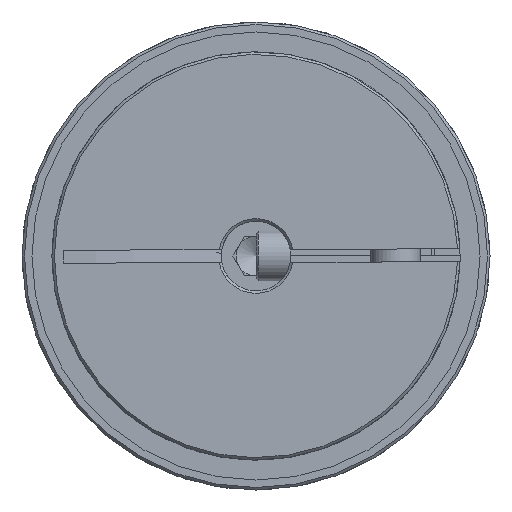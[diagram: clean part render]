
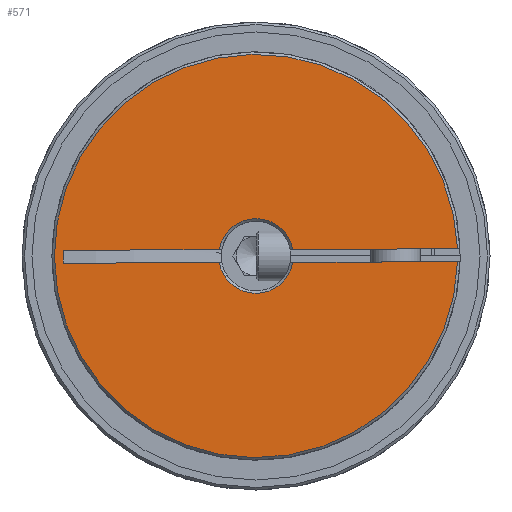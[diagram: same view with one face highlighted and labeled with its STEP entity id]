
A CAD part, left-side view. The second image highlights one B-rep face of the part: STEP entity #571.
In plain terms, the highlighted planar face has unit normal (-1, 0, 0).
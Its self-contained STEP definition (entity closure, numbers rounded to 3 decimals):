
#571 = ADVANCED_FACE( 'NONE', ( #1096 ), #1097, .F. );
#1096 = FACE_OUTER_BOUND( '', #1618, .T. );
#1097 = PLANE( '', #1619 );
#1618 = EDGE_LOOP( '', ( #2554, #2555, #2556, #2557, #2558, #2559, #2560, #2561 ) );
#1619 = AXIS2_PLACEMENT_3D( '', #2562, #2563, #2564 );
#2554 = ORIENTED_EDGE( '', *, *, #3140, .T. );
#2555 = ORIENTED_EDGE( '', *, *, #3142, .T. );
#2556 = ORIENTED_EDGE( '', *, *, #3143, .T. );
#2557 = ORIENTED_EDGE( '', *, *, #3148, .T. );
#2558 = ORIENTED_EDGE( '', *, *, #3149, .F. );
#2559 = ORIENTED_EDGE( '', *, *, #3150, .T. );
#2560 = ORIENTED_EDGE( '', *, *, #3151, .F. );
#2561 = ORIENTED_EDGE( '', *, *, #3127, .T. );
#2562 = CARTESIAN_POINT( '', ( 0., 7., 0. ) );
#2563 = DIRECTION( '', ( 1., 0., 0. ) );
#2564 = DIRECTION( '', ( 0., 1., 0. ) );
#3127 = EDGE_CURVE( 'NONE', #3580, #3584, #3586, .T. );
#3140 = EDGE_CURVE( 'NONE', #3584, #3607, #3609, .T. );
#3142 = EDGE_CURVE( 'NONE', #3607, #3610, #3612, .T. );
#3143 = EDGE_CURVE( 'NONE', #3610, #3613, #3614, .T. );
#3148 = EDGE_CURVE( 'NONE', #3613, #3622, #3623, .F. );
#3149 = EDGE_CURVE( 'NONE', #3624, #3622, #3625, .F. );
#3150 = EDGE_CURVE( 'NONE', #3624, #3626, #3627, .T. );
#3151 = EDGE_CURVE( 'NONE', #3580, #3626, #3628, .F. );
#3580 = VERTEX_POINT( 'NONE', #4659 );
#3584 = VERTEX_POINT( 'NONE', #4666 );
#3586 = LINE( '', #4668, #4669 );
#3607 = VERTEX_POINT( 'NONE', #4696 );
#3609 = LINE( '', #4701, #4702 );
#3610 = VERTEX_POINT( 'NONE', #4703 );
#3612 = CIRCLE( '', #4708, 7.5 );
#3613 = VERTEX_POINT( 'NONE', #4709 );
#3614 = LINE( '', #4710, #4711 );
#3622 = VERTEX_POINT( 'NONE', #4724 );
#3623 = CIRCLE( '', #4725, 40.5 );
#3624 = VERTEX_POINT( 'NONE', #4726 );
#3625 = LINE( '', #4727, #4728 );
#3626 = VERTEX_POINT( 'NONE', #4729 );
#3627 = CIRCLE( '', #4730, 7.5 );
#3628 = LINE( '', #4731, #4732 );
#4659 = CARTESIAN_POINT( '', ( 0., -1.3, -38.697 ) );
#4666 = CARTESIAN_POINT( '', ( 0., 1.3, -38.697 ) );
#4668 = CARTESIAN_POINT( '', ( 0., -1.3, -38.697 ) );
#4669 = VECTOR( '', #5330, 1000. );
#4696 = CARTESIAN_POINT( '', ( 0., 1.3, -7.386 ) );
#4701 = CARTESIAN_POINT( '', ( 0., 1.3, 0. ) );
#4702 = VECTOR( '', #5352, 1000. );
#4703 = CARTESIAN_POINT( '', ( 0., 1.3, 7.386 ) );
#4708 = AXIS2_PLACEMENT_3D( '', #5353, #5354, #5355 );
#4709 = CARTESIAN_POINT( '', ( 0., 1.3, 40.479 ) );
#4710 = CARTESIAN_POINT( '', ( 0., 1.3, 0. ) );
#4711 = VECTOR( '', #5356, 1000. );
#4724 = CARTESIAN_POINT( '', ( 0., -1.3, 40.479 ) );
#4725 = AXIS2_PLACEMENT_3D( '', #5362, #5363, #5364 );
#4726 = CARTESIAN_POINT( '', ( 0., -1.3, 7.386 ) );
#4727 = CARTESIAN_POINT( '', ( 0., -1.3, 11. ) );
#4728 = VECTOR( '', #5365, 1000. );
#4729 = CARTESIAN_POINT( '', ( 0., -1.3, -7.386 ) );
#4730 = AXIS2_PLACEMENT_3D( '', #5366, #5367, #5368 );
#4731 = CARTESIAN_POINT( '', ( 0., -1.3, 11. ) );
#4732 = VECTOR( '', #5369, 1000. );
#5330 = DIRECTION( '', ( 0., 1., 0. ) );
#5352 = DIRECTION( '', ( 0., 0., 1. ) );
#5353 = CARTESIAN_POINT( '', ( 0., 0., 0. ) );
#5354 = DIRECTION( '', ( 1., 0., 0. ) );
#5355 = DIRECTION( '', ( 0., 0., -1. ) );
#5356 = DIRECTION( '', ( 0., 0., 1. ) );
#5362 = CARTESIAN_POINT( '', ( 0., 0., 0. ) );
#5363 = DIRECTION( '', ( 1., 0., 0. ) );
#5364 = DIRECTION( '', ( 0., 0., -1. ) );
#5365 = DIRECTION( '', ( 0., 0., -1. ) );
#5366 = CARTESIAN_POINT( '', ( 0., 0., 0. ) );
#5367 = DIRECTION( '', ( 1., 0., 0. ) );
#5368 = DIRECTION( '', ( 0., 0., -1. ) );
#5369 = DIRECTION( '', ( 0., 0., -1. ) );
